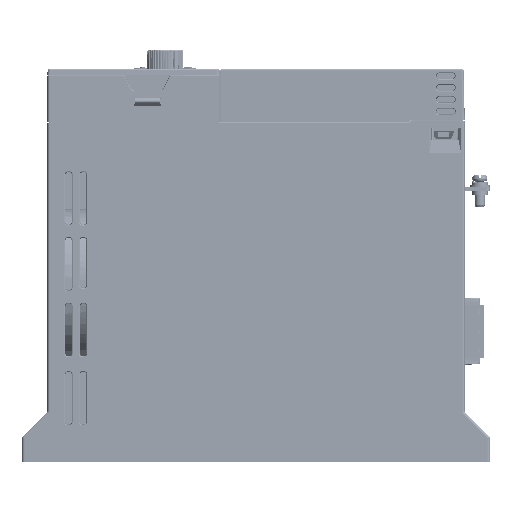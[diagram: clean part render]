
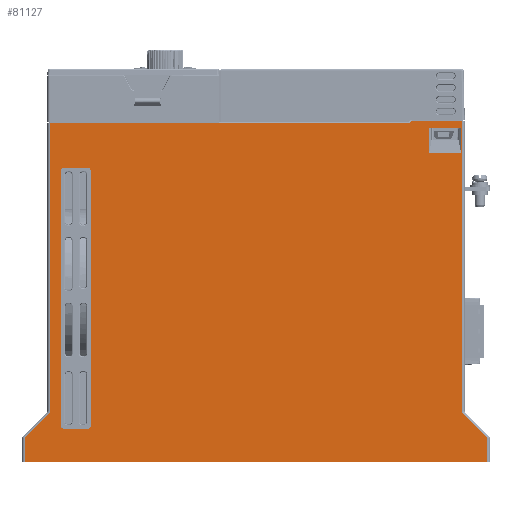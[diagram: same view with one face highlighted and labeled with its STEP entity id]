
A CAD part, left-side view. The second image highlights one B-rep face of the part: STEP entity #81127.
In plain terms, the highlighted planar face has unit normal (-1, 0, 0).
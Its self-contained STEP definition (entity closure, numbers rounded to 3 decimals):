
#16836=DIRECTION('',(0.,-1.,0.));
#16837=VECTOR('',#16836,183.);
#16838=CARTESIAN_POINT('',(0.,9.,-155.2));
#16839=LINE('',#16838,#16837);
#29919=CARTESIAN_POINT('',(0.,-144.207,-21.));
#29920=DIRECTION('',(-1.,0.,0.));
#29921=DIRECTION('',(0.,0.,1.));
#29922=AXIS2_PLACEMENT_3D('',#29919,#29920,#29921);
#29927=DIRECTION('',(0.,1.,0.));
#29928=VECTOR('',#29927,19.793);
#29929=CARTESIAN_POINT('',(0.,-164.,-20.5));
#29930=LINE('',#29929,#29928);
#29934=DIRECTION('',(0.,0.,-1.));
#29935=VECTOR('',#29934,114.586);
#29936=CARTESIAN_POINT('',(0.,-164.,-20.5));
#29937=LINE('',#29936,#29935);
#29941=CARTESIAN_POINT('',(0.,-166.,-135.086));
#29942=DIRECTION('',(-1.,0.,0.));
#29943=DIRECTION('',(0.,1.,0.));
#29944=AXIS2_PLACEMENT_3D('',#29941,#29942,#29943);
#29949=DIRECTION('',(0.,-0.707,-0.707));
#29950=VECTOR('',#29949,13.314);
#29951=CARTESIAN_POINT('',(0.,-164.586,-136.5));
#29952=LINE('',#29951,#29950);
#29956=DIRECTION('',(0.,0.,-1.));
#29957=VECTOR('',#29956,9.286);
#29958=CARTESIAN_POINT('',(0.,-174.,-145.914));
#29959=LINE('',#29958,#29957);
#29963=DIRECTION('',(0.,0.,1.));
#29964=VECTOR('',#29963,9.286);
#29965=CARTESIAN_POINT('',(0.,9.,-155.2));
#29966=LINE('',#29965,#29964);
#29970=DIRECTION('',(0.,-0.707,0.707));
#29971=VECTOR('',#29970,13.314);
#29972=CARTESIAN_POINT('',(0.,9.,-145.914));
#29973=LINE('',#29972,#29971);
#29977=CARTESIAN_POINT('',(0.,1.,-135.086));
#29978=DIRECTION('',(-1.,0.,0.));
#29979=DIRECTION('',(0.,-0.707,-0.707));
#29980=AXIS2_PLACEMENT_3D('',#29977,#29978,#29979);
#29985=DIRECTION('',(0.,0.,1.));
#29986=VECTOR('',#29985,113.586);
#29987=CARTESIAN_POINT('',(0.,-1.,-135.086));
#29988=LINE('',#29987,#29986);
#29992=DIRECTION('',(0.,-1.,0.));
#29993=VECTOR('',#29992,67.013);
#29994=CARTESIAN_POINT('',(0.,-1.,-21.5));
#29995=LINE('',#29994,#29993);
#29999=DIRECTION('',(0.,1.,0.));
#30000=VECTOR('',#29999,74.78);
#30001=CARTESIAN_POINT('',(0.,-142.793,-21.5));
#30002=LINE('',#30001,#30000);
#30006=DIRECTION('',(0.,0.707,-0.707));
#30007=VECTOR('',#30006,1.);
#30008=CARTESIAN_POINT('',(0.,-143.854,-20.646));
#30009=LINE('',#30008,#30007);
#30013=DIRECTION('',(0.,1.,0.));
#30014=VECTOR('',#30013,12.5);
#30015=CARTESIAN_POINT('',(0.,-163.5,-23.2));
#30016=LINE('',#30015,#30014);
#30020=DIRECTION('',(0.,1.,0.));
#30021=VECTOR('',#30020,12.5);
#30022=CARTESIAN_POINT('',(0.,-163.5,-33.));
#30023=LINE('',#30022,#30021);
#30027=DIRECTION('',(0.,0.,-1.));
#30028=VECTOR('',#30027,101.095);
#30029=CARTESIAN_POINT('',(0.,-5.456,-40.072));
#30030=LINE('',#30029,#30028);
#30034=DIRECTION('',(0.,-1.,0.));
#30035=VECTOR('',#30034,9.695);
#30036=CARTESIAN_POINT('',(0.,-6.452,-142.164));
#30037=LINE('',#30036,#30035);
#30041=DIRECTION('',(0.,0.,1.));
#30042=VECTOR('',#30041,101.095);
#30043=CARTESIAN_POINT('',(0.,-17.144,-141.168));
#30044=LINE('',#30043,#30042);
#30048=DIRECTION('',(0.,1.,0.));
#30049=VECTOR('',#30048,9.695);
#30050=CARTESIAN_POINT('',(0.,-16.148,-39.076));
#30051=LINE('',#30050,#30049);
#42366=CARTESIAN_POINT('',(0.,-142.793,-21.));
#42367=DIRECTION('',(1.,0.,0.));
#42368=DIRECTION('',(0.,-0.707,-0.707));
#42369=AXIS2_PLACEMENT_3D('',#42366,#42367,#42368);
#45277=DIRECTION('',(0.,0.,-1.));
#45278=VECTOR('',#45277,9.8);
#45279=CARTESIAN_POINT('',(0.,-163.5,-23.2));
#45280=LINE('',#45279,#45278);
#45312=DIRECTION('',(0.,0.,1.));
#45313=VECTOR('',#45312,9.8);
#45314=CARTESIAN_POINT('',(0.,-151.,-33.));
#45315=LINE('',#45314,#45313);
#45665=CARTESIAN_POINT('',(0.,-5.456,-40.072));
#45666=CARTESIAN_POINT('',(0.,-5.456,-39.74));
#45667=CARTESIAN_POINT('',(0.,-5.707,-39.327));
#45668=CARTESIAN_POINT('',(0.,-6.12,-39.076));
#45669=CARTESIAN_POINT('',(0.,-6.452,-39.076));
#46520=CARTESIAN_POINT('',(0.,-16.148,-39.076));
#46521=CARTESIAN_POINT('',(0.,-16.48,-39.076));
#46522=CARTESIAN_POINT('',(0.,-16.893,-39.327));
#46523=CARTESIAN_POINT('',(0.,-17.144,-39.74));
#46524=CARTESIAN_POINT('',(0.,-17.144,-40.072));
#46543=CARTESIAN_POINT('',(0.,-17.144,-141.168));
#46544=CARTESIAN_POINT('',(0.,-17.144,-141.5));
#46545=CARTESIAN_POINT('',(0.,-16.893,-141.913));
#46546=CARTESIAN_POINT('',(0.,-16.48,-142.164));
#46547=CARTESIAN_POINT('',(0.,-16.148,-142.164));
#46566=CARTESIAN_POINT('',(0.,-6.452,-142.164));
#46567=CARTESIAN_POINT('',(0.,-6.12,-142.164));
#46568=CARTESIAN_POINT('',(0.,-5.707,-141.913));
#46569=CARTESIAN_POINT('',(0.,-5.456,-141.5));
#46570=CARTESIAN_POINT('',(0.,-5.456,-141.168));
#54113=CARTESIAN_POINT('',(0.,-163.5,-33.));
#54114=CARTESIAN_POINT('',(0.,-151.,-33.));
#54115=VERTEX_POINT('',#54113);
#54116=VERTEX_POINT('',#54114);
#54411=CARTESIAN_POINT('',(0.,-163.5,-23.2));
#54412=CARTESIAN_POINT('',(0.,-151.,-23.2));
#54413=VERTEX_POINT('',#54411);
#54414=VERTEX_POINT('',#54412);
#55414=CARTESIAN_POINT('',(0.,-174.,-155.2));
#55416=VERTEX_POINT('',#55414);
#55417=CARTESIAN_POINT('',(0.,-174.,-145.914));
#55418=VERTEX_POINT('',#55417);
#55429=CARTESIAN_POINT('',(0.,9.,-155.2));
#55430=CARTESIAN_POINT('',(0.,9.,-145.914));
#55431=VERTEX_POINT('',#55429);
#55432=VERTEX_POINT('',#55430);
#55465=CARTESIAN_POINT('',(0.,-0.414,-136.5));
#55466=CARTESIAN_POINT('',(0.,-1.,-135.086));
#55467=VERTEX_POINT('',#55465);
#55468=VERTEX_POINT('',#55466);
#55485=CARTESIAN_POINT('',(0.,-164.586,-136.5));
#55486=VERTEX_POINT('',#55485);
#55489=CARTESIAN_POINT('',(0.,-164.,-135.086));
#55490=VERTEX_POINT('',#55489);
#56391=CARTESIAN_POINT('',(0.,-1.,-21.5));
#56392=CARTESIAN_POINT('',(0.,-68.013,-21.5));
#56393=VERTEX_POINT('',#56391);
#56394=VERTEX_POINT('',#56392);
#56420=CARTESIAN_POINT('',(0.,-164.,-20.5));
#56422=VERTEX_POINT('',#56420);
#57491=CARTESIAN_POINT('',(0.,-142.793,-21.5));
#57493=VERTEX_POINT('',#57491);
#57495=CARTESIAN_POINT('',(0.,-143.146,-21.354));
#57496=VERTEX_POINT('',#57495);
#57510=CARTESIAN_POINT('',(0.,-144.207,-20.5));
#57512=VERTEX_POINT('',#57510);
#57514=CARTESIAN_POINT('',(0.,-143.854,-20.646));
#57515=VERTEX_POINT('',#57514);
#57602=CARTESIAN_POINT('',(0.,-5.456,-40.072));
#57603=VERTEX_POINT('',#57602);
#57604=CARTESIAN_POINT('',(0.,-6.452,-39.076));
#57605=VERTEX_POINT('',#57604);
#57608=CARTESIAN_POINT('',(0.,-6.452,-142.164));
#57609=VERTEX_POINT('',#57608);
#57610=CARTESIAN_POINT('',(0.,-5.456,-141.168));
#57611=VERTEX_POINT('',#57610);
#57614=CARTESIAN_POINT('',(0.,-17.144,-141.168));
#57615=VERTEX_POINT('',#57614);
#57616=CARTESIAN_POINT('',(0.,-16.148,-142.164));
#57617=VERTEX_POINT('',#57616);
#57620=CARTESIAN_POINT('',(0.,-16.148,-39.076));
#57621=VERTEX_POINT('',#57620);
#57622=CARTESIAN_POINT('',(0.,-17.144,-40.072));
#57623=VERTEX_POINT('',#57622);
#81065=CARTESIAN_POINT('',(0.,0.,0.));
#81066=DIRECTION('',(-1.,0.,0.));
#81067=DIRECTION('',(0.,-1.,0.));
#81068=AXIS2_PLACEMENT_3D('',#81065,#81066,#81067);
#81069=PLANE('',#81068);
#81070=ORIENTED_EDGE('',*,*,#80993,.F.);
#81071=ORIENTED_EDGE('',*,*,#80946,.F.);
#81073=ORIENTED_EDGE('',*,*,#81072,.T.);
#81075=ORIENTED_EDGE('',*,*,#81074,.T.);
#81077=ORIENTED_EDGE('',*,*,#81076,.T.);
#81079=ORIENTED_EDGE('',*,*,#81078,.T.);
#81080=ORIENTED_EDGE('',*,*,#67556,.F.);
#81082=ORIENTED_EDGE('',*,*,#81081,.T.);
#81084=ORIENTED_EDGE('',*,*,#81083,.T.);
#81086=ORIENTED_EDGE('',*,*,#81085,.T.);
#81088=ORIENTED_EDGE('',*,*,#81087,.T.);
#81090=ORIENTED_EDGE('',*,*,#81089,.T.);
#81092=ORIENTED_EDGE('',*,*,#81091,.F.);
#81094=ORIENTED_EDGE('',*,*,#81093,.F.);
#81096=ORIENTED_EDGE('',*,*,#81095,.F.);
#81097=EDGE_LOOP('',(#81070,#81071,#81073,#81075,#81077,#81079,#81080,#81082,
#81084,#81086,#81088,#81090,#81092,#81094,#81096));
#81098=FACE_OUTER_BOUND('',#81097,.F.);
#81100=ORIENTED_EDGE('',*,*,#81099,.T.);
#81102=ORIENTED_EDGE('',*,*,#81101,.F.);
#81104=ORIENTED_EDGE('',*,*,#81103,.F.);
#81106=ORIENTED_EDGE('',*,*,#81105,.F.);
#81107=EDGE_LOOP('',(#81100,#81102,#81104,#81106));
#81108=FACE_BOUND('',#81107,.F.);
#81110=ORIENTED_EDGE('',*,*,#81109,.T.);
#81112=ORIENTED_EDGE('',*,*,#81111,.F.);
#81114=ORIENTED_EDGE('',*,*,#81113,.T.);
#81116=ORIENTED_EDGE('',*,*,#81115,.F.);
#81118=ORIENTED_EDGE('',*,*,#81117,.T.);
#81120=ORIENTED_EDGE('',*,*,#81119,.F.);
#81122=ORIENTED_EDGE('',*,*,#81121,.T.);
#81124=ORIENTED_EDGE('',*,*,#81123,.F.);
#81125=EDGE_LOOP('',(#81110,#81112,#81114,#81116,#81118,#81120,#81122,#81124));
#81126=FACE_BOUND('',#81125,.F.);
#81127=ADVANCED_FACE('',(#81098,#81108,#81126),#81069,.T.);
#29923=CIRCLE('',#29922,0.5);
#29945=CIRCLE('',#29944,2.);
#29981=CIRCLE('',#29980,2.);
#42370=CIRCLE('',#42369,0.5);
#45670=B_SPLINE_CURVE_WITH_KNOTS('',3,(#45665,#45666,#45667,#45668,#45669),
.UNSPECIFIED.,.F.,.F.,(4,1,4),(0.,0.5,1.),.UNSPECIFIED.);
#46525=B_SPLINE_CURVE_WITH_KNOTS('',3,(#46520,#46521,#46522,#46523,#46524),
.UNSPECIFIED.,.F.,.F.,(4,1,4),(0.,0.5,1.),.UNSPECIFIED.);
#46548=B_SPLINE_CURVE_WITH_KNOTS('',3,(#46543,#46544,#46545,#46546,#46547),
.UNSPECIFIED.,.F.,.F.,(4,1,4),(0.,0.5,1.),.UNSPECIFIED.);
#46571=B_SPLINE_CURVE_WITH_KNOTS('',3,(#46566,#46567,#46568,#46569,#46570),
.UNSPECIFIED.,.F.,.F.,(4,1,4),(0.,0.5,1.),.UNSPECIFIED.);
#67556=EDGE_CURVE('',#55431,#55416,#16839,.T.);
#80946=EDGE_CURVE('',#56422,#57512,#29930,.T.);
#80993=EDGE_CURVE('',#57512,#57515,#29923,.T.);
#81072=EDGE_CURVE('',#56422,#55490,#29937,.T.);
#81074=EDGE_CURVE('',#55490,#55486,#29945,.T.);
#81076=EDGE_CURVE('',#55486,#55418,#29952,.T.);
#81078=EDGE_CURVE('',#55418,#55416,#29959,.T.);
#81081=EDGE_CURVE('',#55431,#55432,#29966,.T.);
#81083=EDGE_CURVE('',#55432,#55467,#29973,.T.);
#81085=EDGE_CURVE('',#55467,#55468,#29981,.T.);
#81087=EDGE_CURVE('',#55468,#56393,#29988,.T.);
#81089=EDGE_CURVE('',#56393,#56394,#29995,.T.);
#81091=EDGE_CURVE('',#57493,#56394,#30002,.T.);
#81093=EDGE_CURVE('',#57496,#57493,#42370,.T.);
#81095=EDGE_CURVE('',#57515,#57496,#30009,.T.);
#81099=EDGE_CURVE('',#54413,#54414,#30016,.T.);
#81101=EDGE_CURVE('',#54116,#54414,#45315,.T.);
#81103=EDGE_CURVE('',#54115,#54116,#30023,.T.);
#81105=EDGE_CURVE('',#54413,#54115,#45280,.T.);
#81109=EDGE_CURVE('',#57603,#57611,#30030,.T.);
#81111=EDGE_CURVE('',#57609,#57611,#46571,.T.);
#81113=EDGE_CURVE('',#57609,#57617,#30037,.T.);
#81115=EDGE_CURVE('',#57615,#57617,#46548,.T.);
#81117=EDGE_CURVE('',#57615,#57623,#30044,.T.);
#81119=EDGE_CURVE('',#57621,#57623,#46525,.T.);
#81121=EDGE_CURVE('',#57621,#57605,#30051,.T.);
#81123=EDGE_CURVE('',#57603,#57605,#45670,.T.);
